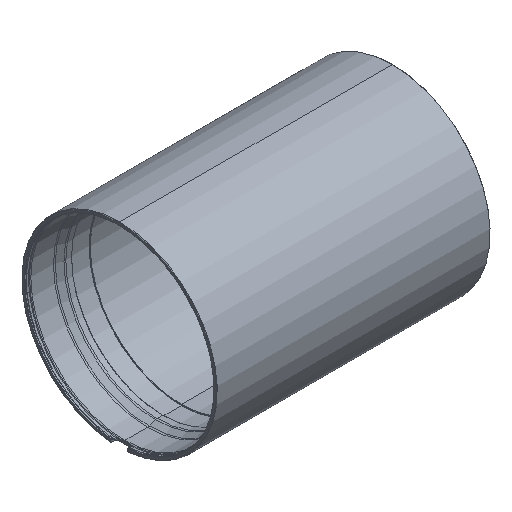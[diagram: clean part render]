
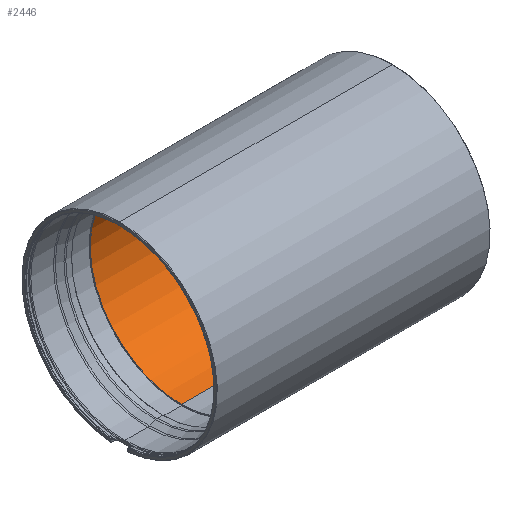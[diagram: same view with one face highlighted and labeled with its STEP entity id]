
A CAD part, isometric view. The second image highlights one B-rep face of the part: STEP entity #2446.
In plain terms, the highlighted cylindrical face has radius 100 mm (diameter 200 mm), a partial arc.
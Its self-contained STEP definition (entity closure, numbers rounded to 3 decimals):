
#182 = CIRCLE ( 'NONE', #6013, 100. ) ;
#302 = EDGE_LOOP ( 'NONE', ( #5113, #2852, #5547, #5423 ) ) ;
#341 = CARTESIAN_POINT ( 'NONE',  ( -231.8, 0., -100. ) ) ;
#378 = CARTESIAN_POINT ( 'NONE',  ( -223.8, 0., 0. ) ) ;
#427 = DIRECTION ( 'NONE',  ( 0., 0., -1. ) ) ;
#684 = CIRCLE ( 'NONE', #5193, 100. ) ;
#1311 = LINE ( 'NONE', #2307, #4359 ) ;
#1379 = VERTEX_POINT ( 'NONE', #341 ) ;
#1804 = LINE ( 'NONE', #3864, #2741 ) ;
#1822 = DIRECTION ( 'NONE',  ( 0., 0., 1. ) ) ;
#1870 = DIRECTION ( 'NONE',  ( 0., 0., -1. ) ) ;
#2307 = CARTESIAN_POINT ( 'NONE',  ( -223.8, 0., -100. ) ) ;
#2361 = DIRECTION ( 'NONE',  ( -1., 0., 0. ) ) ;
#2446 = ADVANCED_FACE ( 'NONE', ( #4832 ), #6218, .F. ) ;
#2520 = EDGE_CURVE ( 'NONE', #1379, #3505, #1311, .T. ) ;
#2741 = VECTOR ( 'NONE', #6232, 1000. ) ;
#2852 = ORIENTED_EDGE ( 'NONE', *, *, #2520, .T. ) ;
#3302 = DIRECTION ( 'NONE',  ( 1., 0., 0. ) ) ;
#3387 = CARTESIAN_POINT ( 'NONE',  ( -231.8, 0., 0. ) ) ;
#3505 = VERTEX_POINT ( 'NONE', #5756 ) ;
#3780 = VERTEX_POINT ( 'NONE', #5764 ) ;
#3864 = CARTESIAN_POINT ( 'NONE',  ( -223.8, 0., 100. ) ) ;
#4224 = DIRECTION ( 'NONE',  ( 1., 0., 0. ) ) ;
#4301 = VERTEX_POINT ( 'NONE', #4938 ) ;
#4359 = VECTOR ( 'NONE', #3302, 1000. ) ;
#4791 = CARTESIAN_POINT ( 'NONE',  ( -150.2, 0., 0. ) ) ;
#4832 = FACE_OUTER_BOUND ( 'NONE', #302, .T. ) ;
#4938 = CARTESIAN_POINT ( 'NONE',  ( -150.2, 0., 100. ) ) ;
#5113 = ORIENTED_EDGE ( 'NONE', *, *, #5289, .F. ) ;
#5193 = AXIS2_PLACEMENT_3D ( 'NONE', #3387, #5751, #427 ) ;
#5289 = EDGE_CURVE ( 'NONE', #1379, #3780, #684, .T. ) ;
#5360 = EDGE_CURVE ( 'NONE', #4301, #3505, #182, .T. ) ;
#5423 = ORIENTED_EDGE ( 'NONE', *, *, #5720, .F. ) ;
#5547 = ORIENTED_EDGE ( 'NONE', *, *, #5360, .F. ) ;
#5720 = EDGE_CURVE ( 'NONE', #3780, #4301, #1804, .T. ) ;
#5751 = DIRECTION ( 'NONE',  ( 1., 0., 0. ) ) ;
#5756 = CARTESIAN_POINT ( 'NONE',  ( -150.2, 0., -100. ) ) ;
#5764 = CARTESIAN_POINT ( 'NONE',  ( -231.8, 0., 100. ) ) ;
#5788 = AXIS2_PLACEMENT_3D ( 'NONE', #378, #4224, #1822 ) ;
#6013 = AXIS2_PLACEMENT_3D ( 'NONE', #4791, #2361, #1870 ) ;
#6218 = CYLINDRICAL_SURFACE ( 'NONE', #5788, 100. ) ;
#6232 = DIRECTION ( 'NONE',  ( 1., 0., 0. ) ) ;
